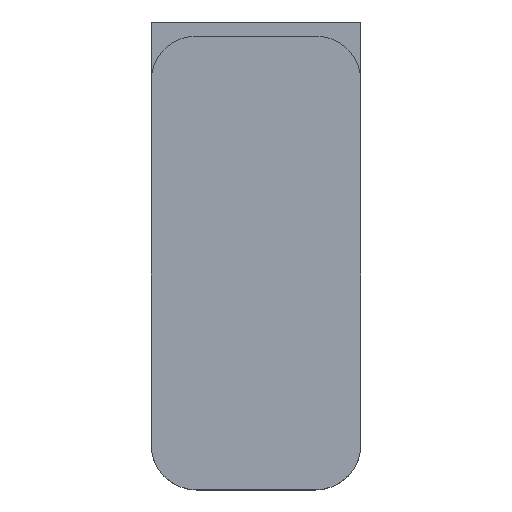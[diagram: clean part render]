
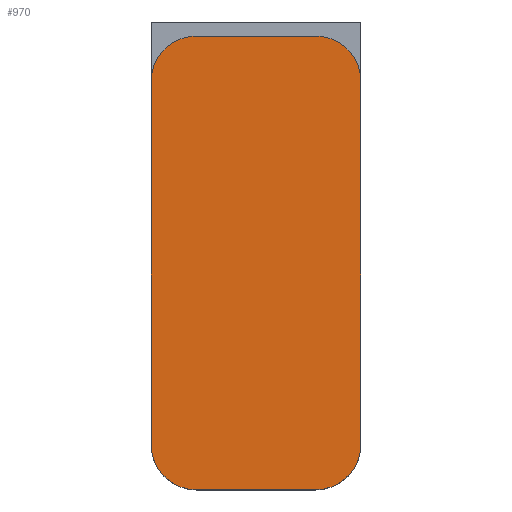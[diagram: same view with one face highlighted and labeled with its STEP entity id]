
A CAD part, top view. The second image highlights one B-rep face of the part: STEP entity #970.
In plain terms, the highlighted planar face has unit normal (0, 0, 1).
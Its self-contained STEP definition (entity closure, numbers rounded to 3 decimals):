
#32 = PLANE('',#33);
#33 = AXIS2_PLACEMENT_3D('',#34,#35,#36);
#34 = CARTESIAN_POINT('',(-1.85,13.15,7.9));
#35 = DIRECTION('',(1.,0.,0.));
#36 = DIRECTION('',(0.,0.,1.));
#141 = VERTEX_POINT('',#142);
#142 = CARTESIAN_POINT('',(-1.85,15.8,22.6));
#156 = CYLINDRICAL_SURFACE('',#157,0.8);
#157 = AXIS2_PLACEMENT_3D('',#158,#159,#160);
#158 = CARTESIAN_POINT('',(-1.05,15.8,20.6));
#159 = DIRECTION('',(0.,0.,1.));
#160 = DIRECTION('',(-0.,1.,0.));
#168 = EDGE_CURVE('',#141,#169,#171,.T.);
#169 = VERTEX_POINT('',#170);
#170 = CARTESIAN_POINT('',(-1.85,9.4,22.6));
#171 = SURFACE_CURVE('',#172,(#176,#183),.PCURVE_S1.);
#172 = LINE('',#173,#174);
#173 = CARTESIAN_POINT('',(-1.85,16.6,22.6));
#174 = VECTOR('',#175,1.);
#175 = DIRECTION('',(0.,-1.,0.));
#176 = PCURVE('',#32,#177);
#177 = DEFINITIONAL_REPRESENTATION('',(#178),#182);
#178 = LINE('',#179,#180);
#179 = CARTESIAN_POINT('',(14.7,-3.45));
#180 = VECTOR('',#181,1.);
#181 = DIRECTION('',(0.,1.));
#182 = ( GEOMETRIC_REPRESENTATION_CONTEXT(2) 
PARAMETRIC_REPRESENTATION_CONTEXT() REPRESENTATION_CONTEXT('2D SPACE',''
  ) );
#183 = PCURVE('',#184,#189);
#184 = PLANE('',#185);
#185 = AXIS2_PLACEMENT_3D('',#186,#187,#188);
#186 = CARTESIAN_POINT('',(0.,12.6,22.6));
#187 = DIRECTION('',(0.,0.,1.));
#188 = DIRECTION('',(1.,0.,-0.));
#189 = DEFINITIONAL_REPRESENTATION('',(#190),#194);
#190 = LINE('',#191,#192);
#191 = CARTESIAN_POINT('',(-1.85,4.));
#192 = VECTOR('',#193,1.);
#193 = DIRECTION('',(0.,-1.));
#194 = ( GEOMETRIC_REPRESENTATION_CONTEXT(2) 
PARAMETRIC_REPRESENTATION_CONTEXT() REPRESENTATION_CONTEXT('2D SPACE',''
  ) );
#212 = CYLINDRICAL_SURFACE('',#213,0.8);
#213 = AXIS2_PLACEMENT_3D('',#214,#215,#216);
#214 = CARTESIAN_POINT('',(-1.05,9.4,20.6));
#215 = DIRECTION('',(0.,0.,1.));
#216 = DIRECTION('',(0.,-1.,0.));
#271 = PLANE('',#272);
#272 = AXIS2_PLACEMENT_3D('',#273,#274,#275);
#273 = CARTESIAN_POINT('',(1.85,13.15,7.9));
#274 = DIRECTION('',(1.,0.,0.));
#275 = DIRECTION('',(0.,0.,1.));
#367 = PLANE('',#368);
#368 = AXIS2_PLACEMENT_3D('',#369,#370,#371);
#369 = CARTESIAN_POINT('',(1.85,16.6,20.6));
#370 = DIRECTION('',(0.,-1.,0.));
#371 = DIRECTION('',(-1.,0.,0.));
#395 = CYLINDRICAL_SURFACE('',#396,0.8);
#396 = AXIS2_PLACEMENT_3D('',#397,#398,#399);
#397 = CARTESIAN_POINT('',(1.05,15.8,20.6));
#398 = DIRECTION('',(0.,0.,1.));
#399 = DIRECTION('',(1.,0.,-0.));
#535 = VERTEX_POINT('',#536);
#536 = CARTESIAN_POINT('',(1.85,15.8,22.6));
#557 = EDGE_CURVE('',#558,#535,#560,.T.);
#558 = VERTEX_POINT('',#559);
#559 = CARTESIAN_POINT('',(1.85,9.4,22.6));
#560 = SURFACE_CURVE('',#561,(#565,#572),.PCURVE_S1.);
#561 = LINE('',#562,#563);
#562 = CARTESIAN_POINT('',(1.85,8.6,22.6));
#563 = VECTOR('',#564,1.);
#564 = DIRECTION('',(0.,1.,0.));
#565 = PCURVE('',#271,#566);
#566 = DEFINITIONAL_REPRESENTATION('',(#567),#571);
#567 = LINE('',#568,#569);
#568 = CARTESIAN_POINT('',(14.7,4.55));
#569 = VECTOR('',#570,1.);
#570 = DIRECTION('',(0.,-1.));
#571 = ( GEOMETRIC_REPRESENTATION_CONTEXT(2) 
PARAMETRIC_REPRESENTATION_CONTEXT() REPRESENTATION_CONTEXT('2D SPACE',''
  ) );
#572 = PCURVE('',#184,#573);
#573 = DEFINITIONAL_REPRESENTATION('',(#574),#578);
#574 = LINE('',#575,#576);
#575 = CARTESIAN_POINT('',(1.85,-4.));
#576 = VECTOR('',#577,1.);
#577 = DIRECTION('',(0.,1.));
#578 = ( GEOMETRIC_REPRESENTATION_CONTEXT(2) 
PARAMETRIC_REPRESENTATION_CONTEXT() REPRESENTATION_CONTEXT('2D SPACE',''
  ) );
#596 = CYLINDRICAL_SURFACE('',#597,0.8);
#597 = AXIS2_PLACEMENT_3D('',#598,#599,#600);
#598 = CARTESIAN_POINT('',(1.05,9.4,20.6));
#599 = DIRECTION('',(0.,0.,1.));
#600 = DIRECTION('',(0.,-1.,0.));
#676 = PLANE('',#677);
#677 = AXIS2_PLACEMENT_3D('',#678,#679,#680);
#678 = CARTESIAN_POINT('',(-1.85,8.6,20.6));
#679 = DIRECTION('',(0.,1.,0.));
#680 = DIRECTION('',(1.,0.,0.));
#719 = VERTEX_POINT('',#720);
#720 = CARTESIAN_POINT('',(1.05,16.6,22.6));
#741 = EDGE_CURVE('',#535,#719,#742,.T.);
#742 = SURFACE_CURVE('',#743,(#748,#755),.PCURVE_S1.);
#743 = CIRCLE('',#744,0.8);
#744 = AXIS2_PLACEMENT_3D('',#745,#746,#747);
#745 = CARTESIAN_POINT('',(1.05,15.8,22.6));
#746 = DIRECTION('',(0.,0.,1.));
#747 = DIRECTION('',(0.,-1.,0.));
#748 = PCURVE('',#395,#749);
#749 = DEFINITIONAL_REPRESENTATION('',(#750),#754);
#750 = LINE('',#751,#752);
#751 = CARTESIAN_POINT('',(-1.571,2.));
#752 = VECTOR('',#753,1.);
#753 = DIRECTION('',(1.,0.));
#754 = ( GEOMETRIC_REPRESENTATION_CONTEXT(2) 
PARAMETRIC_REPRESENTATION_CONTEXT() REPRESENTATION_CONTEXT('2D SPACE',''
  ) );
#755 = PCURVE('',#184,#756);
#756 = DEFINITIONAL_REPRESENTATION('',(#757),#761);
#757 = CIRCLE('',#758,0.8);
#758 = AXIS2_PLACEMENT_2D('',#759,#760);
#759 = CARTESIAN_POINT('',(1.05,3.2));
#760 = DIRECTION('',(0.,-1.));
#761 = ( GEOMETRIC_REPRESENTATION_CONTEXT(2) 
PARAMETRIC_REPRESENTATION_CONTEXT() REPRESENTATION_CONTEXT('2D SPACE',''
  ) );
#768 = EDGE_CURVE('',#719,#769,#771,.T.);
#769 = VERTEX_POINT('',#770);
#770 = CARTESIAN_POINT('',(-1.05,16.6,22.6));
#771 = SURFACE_CURVE('',#772,(#776,#783),.PCURVE_S1.);
#772 = LINE('',#773,#774);
#773 = CARTESIAN_POINT('',(1.85,16.6,22.6));
#774 = VECTOR('',#775,1.);
#775 = DIRECTION('',(-1.,0.,0.));
#776 = PCURVE('',#367,#777);
#777 = DEFINITIONAL_REPRESENTATION('',(#778),#782);
#778 = LINE('',#779,#780);
#779 = CARTESIAN_POINT('',(0.,-2.));
#780 = VECTOR('',#781,1.);
#781 = DIRECTION('',(1.,0.));
#782 = ( GEOMETRIC_REPRESENTATION_CONTEXT(2) 
PARAMETRIC_REPRESENTATION_CONTEXT() REPRESENTATION_CONTEXT('2D SPACE',''
  ) );
#783 = PCURVE('',#184,#784);
#784 = DEFINITIONAL_REPRESENTATION('',(#785),#789);
#785 = LINE('',#786,#787);
#786 = CARTESIAN_POINT('',(1.85,4.));
#787 = VECTOR('',#788,1.);
#788 = DIRECTION('',(-1.,0.));
#789 = ( GEOMETRIC_REPRESENTATION_CONTEXT(2) 
PARAMETRIC_REPRESENTATION_CONTEXT() REPRESENTATION_CONTEXT('2D SPACE',''
  ) );
#818 = EDGE_CURVE('',#769,#141,#819,.T.);
#819 = SURFACE_CURVE('',#820,(#825,#832),.PCURVE_S1.);
#820 = CIRCLE('',#821,0.8);
#821 = AXIS2_PLACEMENT_3D('',#822,#823,#824);
#822 = CARTESIAN_POINT('',(-1.05,15.8,22.6));
#823 = DIRECTION('',(0.,0.,1.));
#824 = DIRECTION('',(0.,-1.,0.));
#825 = PCURVE('',#156,#826);
#826 = DEFINITIONAL_REPRESENTATION('',(#827),#831);
#827 = LINE('',#828,#829);
#828 = CARTESIAN_POINT('',(-3.142,2.));
#829 = VECTOR('',#830,1.);
#830 = DIRECTION('',(1.,0.));
#831 = ( GEOMETRIC_REPRESENTATION_CONTEXT(2) 
PARAMETRIC_REPRESENTATION_CONTEXT() REPRESENTATION_CONTEXT('2D SPACE',''
  ) );
#832 = PCURVE('',#184,#833);
#833 = DEFINITIONAL_REPRESENTATION('',(#834),#838);
#834 = CIRCLE('',#835,0.8);
#835 = AXIS2_PLACEMENT_2D('',#836,#837);
#836 = CARTESIAN_POINT('',(-1.05,3.2));
#837 = DIRECTION('',(0.,-1.));
#838 = ( GEOMETRIC_REPRESENTATION_CONTEXT(2) 
PARAMETRIC_REPRESENTATION_CONTEXT() REPRESENTATION_CONTEXT('2D SPACE',''
  ) );
#845 = EDGE_CURVE('',#846,#169,#848,.T.);
#846 = VERTEX_POINT('',#847);
#847 = CARTESIAN_POINT('',(-1.05,8.6,22.6));
#848 = SURFACE_CURVE('',#849,(#854,#861),.PCURVE_S1.);
#849 = CIRCLE('',#850,0.8);
#850 = AXIS2_PLACEMENT_3D('',#851,#852,#853);
#851 = CARTESIAN_POINT('',(-1.05,9.4,22.6));
#852 = DIRECTION('',(-0.,-0.,-1.));
#853 = DIRECTION('',(0.,-1.,0.));
#854 = PCURVE('',#212,#855);
#855 = DEFINITIONAL_REPRESENTATION('',(#856),#860);
#856 = LINE('',#857,#858);
#857 = CARTESIAN_POINT('',(-0.,2.));
#858 = VECTOR('',#859,1.);
#859 = DIRECTION('',(-1.,0.));
#860 = ( GEOMETRIC_REPRESENTATION_CONTEXT(2) 
PARAMETRIC_REPRESENTATION_CONTEXT() REPRESENTATION_CONTEXT('2D SPACE',''
  ) );
#861 = PCURVE('',#184,#862);
#862 = DEFINITIONAL_REPRESENTATION('',(#863),#871);
#863 = ( BOUNDED_CURVE() B_SPLINE_CURVE(2,(#864,#865,#866,#867,#868,#869
,#870),.UNSPECIFIED.,.T.,.F.) B_SPLINE_CURVE_WITH_KNOTS((1,2,2,2,2,1),(
    -2.094,0.,2.094,4.189,6.283,
8.378),.UNSPECIFIED.) CURVE() GEOMETRIC_REPRESENTATION_ITEM() 
RATIONAL_B_SPLINE_CURVE((1.,0.5,1.,0.5,1.,0.5,1.)) REPRESENTATION_ITEM(
  '') );
#864 = CARTESIAN_POINT('',(-1.05,-4.));
#865 = CARTESIAN_POINT('',(-2.436,-4.));
#866 = CARTESIAN_POINT('',(-1.743,-2.8));
#867 = CARTESIAN_POINT('',(-1.05,-1.6));
#868 = CARTESIAN_POINT('',(-0.357,-2.8));
#869 = CARTESIAN_POINT('',(0.336,-4.));
#870 = CARTESIAN_POINT('',(-1.05,-4.));
#871 = ( GEOMETRIC_REPRESENTATION_CONTEXT(2) 
PARAMETRIC_REPRESENTATION_CONTEXT() REPRESENTATION_CONTEXT('2D SPACE',''
  ) );
#899 = EDGE_CURVE('',#900,#558,#902,.T.);
#900 = VERTEX_POINT('',#901);
#901 = CARTESIAN_POINT('',(1.05,8.6,22.6));
#902 = SURFACE_CURVE('',#903,(#908,#915),.PCURVE_S1.);
#903 = CIRCLE('',#904,0.8);
#904 = AXIS2_PLACEMENT_3D('',#905,#906,#907);
#905 = CARTESIAN_POINT('',(1.05,9.4,22.6));
#906 = DIRECTION('',(0.,0.,1.));
#907 = DIRECTION('',(0.,-1.,0.));
#908 = PCURVE('',#596,#909);
#909 = DEFINITIONAL_REPRESENTATION('',(#910),#914);
#910 = LINE('',#911,#912);
#911 = CARTESIAN_POINT('',(0.,2.));
#912 = VECTOR('',#913,1.);
#913 = DIRECTION('',(1.,0.));
#914 = ( GEOMETRIC_REPRESENTATION_CONTEXT(2) 
PARAMETRIC_REPRESENTATION_CONTEXT() REPRESENTATION_CONTEXT('2D SPACE',''
  ) );
#915 = PCURVE('',#184,#916);
#916 = DEFINITIONAL_REPRESENTATION('',(#917),#921);
#917 = CIRCLE('',#918,0.8);
#918 = AXIS2_PLACEMENT_2D('',#919,#920);
#919 = CARTESIAN_POINT('',(1.05,-3.2));
#920 = DIRECTION('',(0.,-1.));
#921 = ( GEOMETRIC_REPRESENTATION_CONTEXT(2) 
PARAMETRIC_REPRESENTATION_CONTEXT() REPRESENTATION_CONTEXT('2D SPACE',''
  ) );
#949 = EDGE_CURVE('',#846,#900,#950,.T.);
#950 = SURFACE_CURVE('',#951,(#955,#962),.PCURVE_S1.);
#951 = LINE('',#952,#953);
#952 = CARTESIAN_POINT('',(-1.85,8.6,22.6));
#953 = VECTOR('',#954,1.);
#954 = DIRECTION('',(1.,0.,0.));
#955 = PCURVE('',#676,#956);
#956 = DEFINITIONAL_REPRESENTATION('',(#957),#961);
#957 = LINE('',#958,#959);
#958 = CARTESIAN_POINT('',(0.,-2.));
#959 = VECTOR('',#960,1.);
#960 = DIRECTION('',(1.,0.));
#961 = ( GEOMETRIC_REPRESENTATION_CONTEXT(2) 
PARAMETRIC_REPRESENTATION_CONTEXT() REPRESENTATION_CONTEXT('2D SPACE',''
  ) );
#962 = PCURVE('',#184,#963);
#963 = DEFINITIONAL_REPRESENTATION('',(#964),#968);
#964 = LINE('',#965,#966);
#965 = CARTESIAN_POINT('',(-1.85,-4.));
#966 = VECTOR('',#967,1.);
#967 = DIRECTION('',(1.,0.));
#968 = ( GEOMETRIC_REPRESENTATION_CONTEXT(2) 
PARAMETRIC_REPRESENTATION_CONTEXT() REPRESENTATION_CONTEXT('2D SPACE',''
  ) );
#970 = ADVANCED_FACE('',(#971),#184,.T.);
#971 = FACE_BOUND('',#972,.T.);
#972 = EDGE_LOOP('',(#973,#974,#975,#976,#977,#978,#979,#980));
#973 = ORIENTED_EDGE('',*,*,#949,.T.);
#974 = ORIENTED_EDGE('',*,*,#899,.T.);
#975 = ORIENTED_EDGE('',*,*,#557,.T.);
#976 = ORIENTED_EDGE('',*,*,#741,.T.);
#977 = ORIENTED_EDGE('',*,*,#768,.T.);
#978 = ORIENTED_EDGE('',*,*,#818,.T.);
#979 = ORIENTED_EDGE('',*,*,#168,.T.);
#980 = ORIENTED_EDGE('',*,*,#845,.F.);
